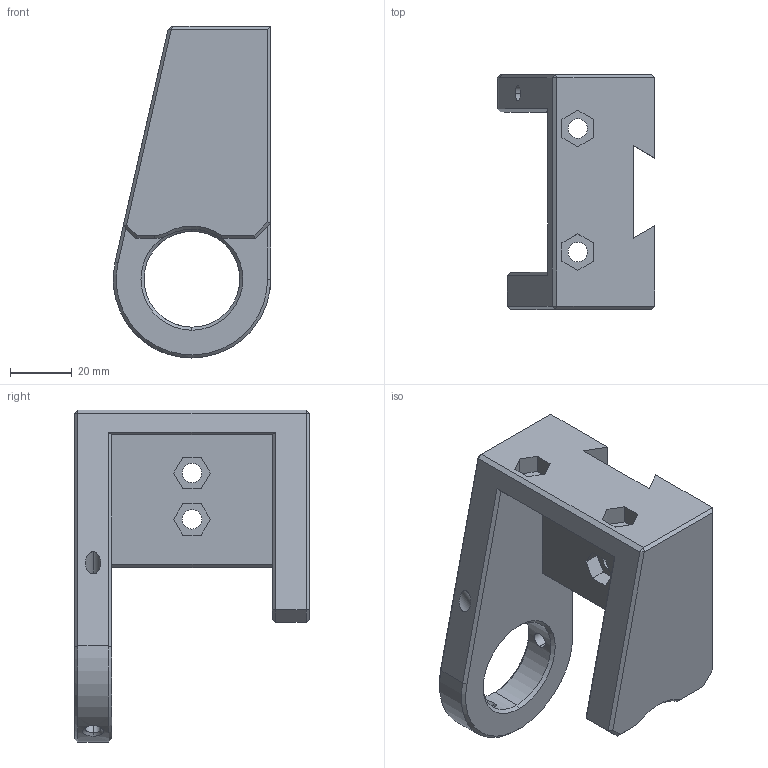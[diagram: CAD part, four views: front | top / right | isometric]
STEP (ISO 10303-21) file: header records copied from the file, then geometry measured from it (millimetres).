
FILE_DESCRIPTION (( 'STEP AP214' ), '1' );
FILE_NAME ('2019_miCube_Bracket_clamp_dovetail.STEP', '2019-05-27T07:26:32', ( '' ), ( '' ), 'SwSTEP 2.0', 'SolidWorks 2017', '' );
FILE_SCHEMA (( 'AUTOMOTIVE_DESIGN' ));
Length unit declared in the file: millimetre
Products named in the file (1): 2019_miCube_Bracket_clamp_dovetail
Bounding box: 50.95 x 76 x 107.5 mm (x, y, z)
Volume: 112426.2 mm3; surface area: 28516.2 mm2
Topology: 1 solids, 1 shells, 105 faces, 265 edges, 165 vertices
Faces by surface type: plane 69, cylinder 20, cone 13, bspline 3
Entity records: 4750 total; most frequent: CARTESIAN_POINT 2190, ORIENTED_EDGE 530, DIRECTION 494, EDGE_CURVE 265, LINE 200, VECTOR 200, VERTEX_POINT 165, AXIS2_PLACEMENT_3D 147
